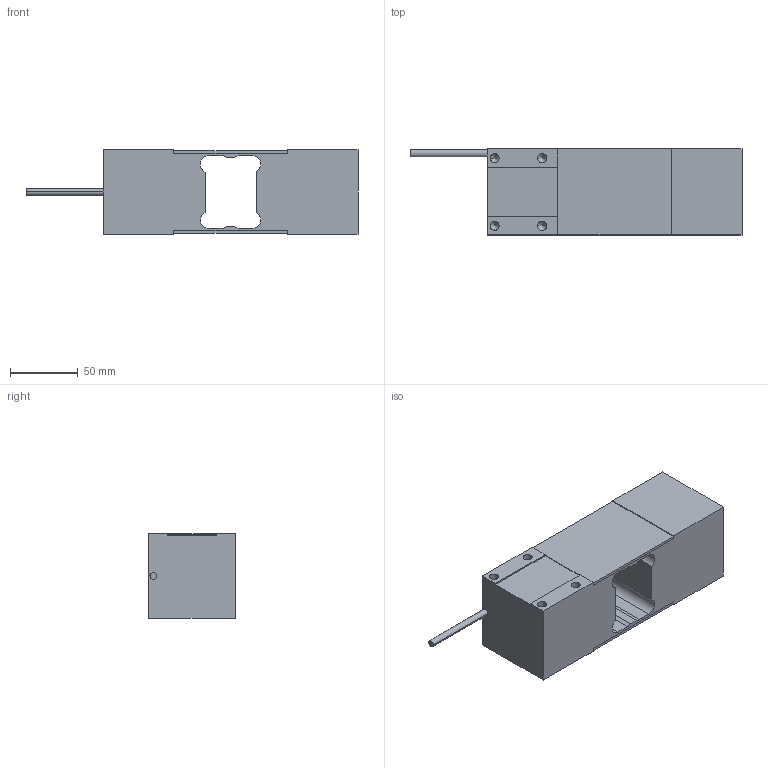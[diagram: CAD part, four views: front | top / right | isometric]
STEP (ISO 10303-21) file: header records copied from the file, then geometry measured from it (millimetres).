
FILE_DESCRIPTION (( 'STEP AP203' ), '1' );
FILE_NAME ('Load_Sensor_HISPA60.STEP', '2014-10-08T00:37:24', ( '' ), ( '' ), 'SwSTEP 2.0', 'SolidWorks 2013', '' );
FILE_SCHEMA (( 'CONFIG_CONTROL_DESIGN' ));
Length unit declared in the file: millimetre
Products named in the file (1): Load_Sensor_HISPA60
Bounding box: 244.98 x 63.5 x 62.3 mm (x, y, z)
Volume: 593402.9 mm3; surface area: 69040.2 mm2
Topology: 1 solids, 3 shells, 116 faces, 293 edges, 176 vertices
Faces by surface type: plane 51, cylinder 33, cone 32
Entity records: 3447 total; most frequent: CARTESIAN_POINT 608, DIRECTION 592, ORIENTED_EDGE 554, EDGE_CURVE 277, AXIS2_PLACEMENT_3D 200, VECTOR 192, LINE 192, VERTEX_POINT 176
